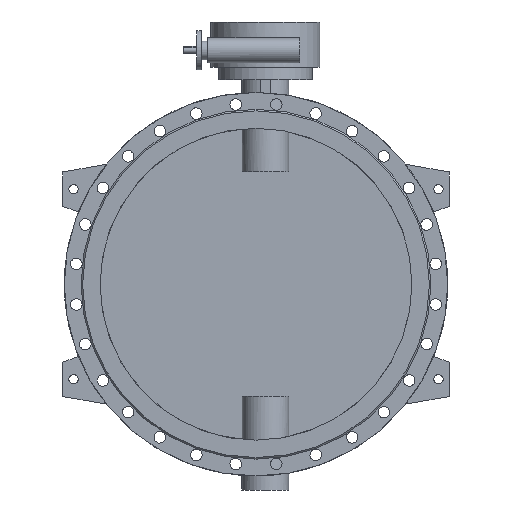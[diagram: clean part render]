
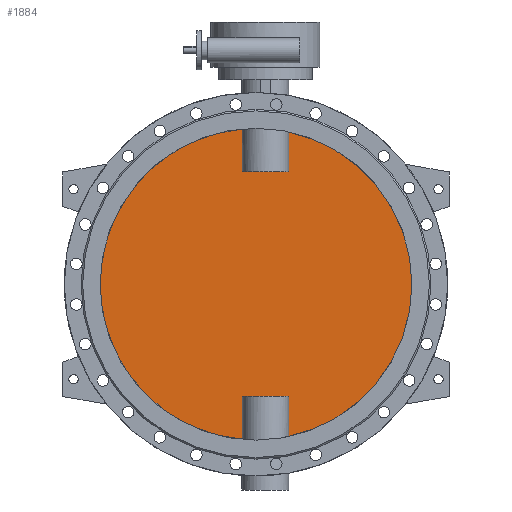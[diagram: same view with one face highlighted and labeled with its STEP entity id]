
A CAD part, front view. The second image highlights one B-rep face of the part: STEP entity #1884.
In plain terms, the highlighted planar face has unit normal (0, -1, 0).
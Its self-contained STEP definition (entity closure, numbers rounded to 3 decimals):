
#1884=ADVANCED_FACE('',(#3964),#3966,.F.);
#3964=FACE_BOUND('',#3965,.T.);
#3965=EDGE_LOOP('',(#4922,#4923,#4924,#4925,#4926,#4927,#4928,#4929));
#3966=PLANE('',#3967);
#3967=AXIS2_PLACEMENT_3D('',#3968,#3969,#3970);
#3968=CARTESIAN_POINT('',(0.,-5.,0.));
#3969=DIRECTION('',(0.,1.,0.));
#3970=DIRECTION('',(1.,0.,0.));
#4922=ORIENTED_EDGE('',*,*,#5401,.T.);
#4923=ORIENTED_EDGE('',*,*,#5407,.T.);
#4924=ORIENTED_EDGE('',*,*,#5408,.T.);
#4925=ORIENTED_EDGE('',*,*,#5409,.T.);
#4926=ORIENTED_EDGE('',*,*,#5403,.T.);
#4927=ORIENTED_EDGE('',*,*,#5410,.T.);
#4928=ORIENTED_EDGE('',*,*,#5411,.T.);
#4929=ORIENTED_EDGE('',*,*,#5412,.T.);
#5401=EDGE_CURVE('',#6201,#6202,#6203,.F.);
#5403=EDGE_CURVE('',#6206,#6204,#6207,.F.);
#5407=EDGE_CURVE('',#6202,#6213,#6214,.T.);
#5408=EDGE_CURVE('',#6213,#6215,#6216,.F.);
#5409=EDGE_CURVE('',#6215,#6206,#6217,.F.);
#5410=EDGE_CURVE('',#6204,#6218,#6219,.F.);
#5411=EDGE_CURVE('',#6218,#6220,#6221,.F.);
#5412=EDGE_CURVE('',#6220,#6201,#6222,.T.);
#6201=VERTEX_POINT('',#9035);
#6202=VERTEX_POINT('',#9036);
#6203=CIRCLE('',#9037,500.);
#6204=VERTEX_POINT('',#9041);
#6206=VERTEX_POINT('',#9139);
#6207=CIRCLE('',#9140,500.);
#6213=VERTEX_POINT('',#9250);
#6214=LINE('',#9251,#9252);
#6215=VERTEX_POINT('',#9254);
#6216=LINE('',#9255,#9256);
#6217=LINE('',#9258,#9259);
#6218=VERTEX_POINT('',#9261);
#6219=LINE('',#9262,#9263);
#6220=VERTEX_POINT('',#9265);
#6221=LINE('',#9266,#9267);
#6222=LINE('',#9269,#9270);
#9035=CARTESIAN_POINT('',(104.833,-5.,-488.887));
#9036=CARTESIAN_POINT('',(104.833,-5.,488.887));
#9037=AXIS2_PLACEMENT_3D('',#9038,#9039,#9040);
#9038=CARTESIAN_POINT('',(0.,-5.,0.));
#9039=DIRECTION('',(0.,1.,0.));
#9040=DIRECTION('',(0.21,0.,0.978));
#9041=CARTESIAN_POINT('',(-44.833,-5.,-497.986));
#9139=CARTESIAN_POINT('',(-44.833,-5.,497.986));
#9140=AXIS2_PLACEMENT_3D('',#9141,#9142,#9143);
#9141=CARTESIAN_POINT('',(0.,-5.,0.));
#9142=DIRECTION('',(0.,1.,0.));
#9143=DIRECTION('',(-0.09,0.,-0.996));
#9250=CARTESIAN_POINT('',(104.833,-5.,360.));
#9251=CARTESIAN_POINT('',(104.833,-5.,488.887));
#9252=VECTOR('',#9253,1.);
#9253=DIRECTION('',(0.,0.,-1.));
#9254=CARTESIAN_POINT('',(-44.833,-5.,360.));
#9255=CARTESIAN_POINT('',(-44.833,-5.,360.));
#9256=VECTOR('',#9257,1.);
#9257=DIRECTION('',(1.,0.,0.));
#9258=CARTESIAN_POINT('',(-44.833,-5.,497.986));
#9259=VECTOR('',#9260,1.);
#9260=DIRECTION('',(0.,0.,-1.));
#9261=CARTESIAN_POINT('',(-44.833,-5.,-360.));
#9262=CARTESIAN_POINT('',(-44.833,-5.,-360.));
#9263=VECTOR('',#9264,1.);
#9264=DIRECTION('',(0.,0.,-1.));
#9265=CARTESIAN_POINT('',(104.833,-5.,-360.));
#9266=CARTESIAN_POINT('',(104.833,-5.,-360.));
#9267=VECTOR('',#9268,1.);
#9268=DIRECTION('',(-1.,0.,0.));
#9269=CARTESIAN_POINT('',(104.833,-5.,-360.));
#9270=VECTOR('',#9271,1.);
#9271=DIRECTION('',(0.,0.,-1.));
